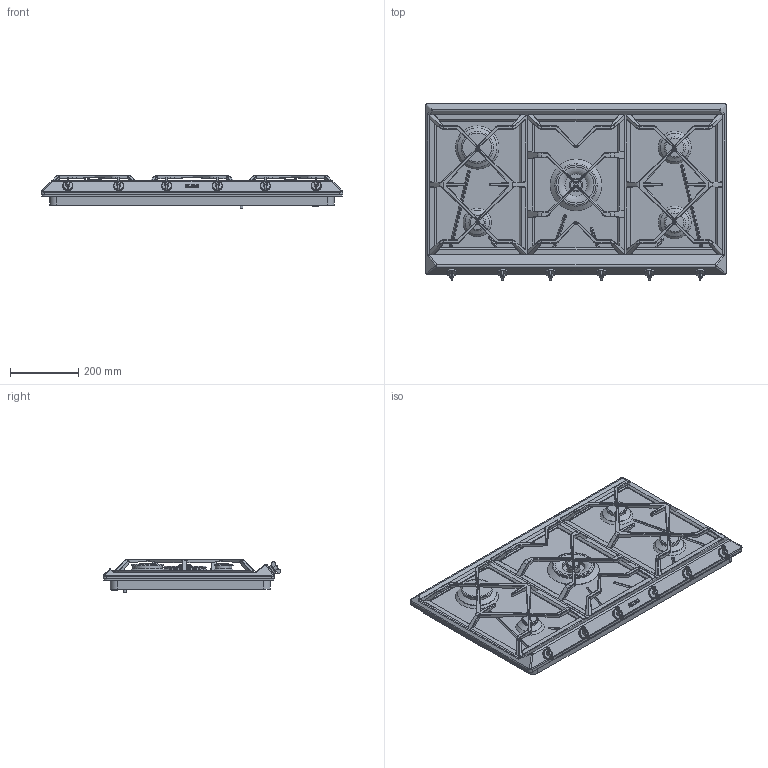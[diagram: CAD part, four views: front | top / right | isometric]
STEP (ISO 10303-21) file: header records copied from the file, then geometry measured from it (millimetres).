
FILE_DESCRIPTION(/* description */ (''),/* implementation_level */ '2;1');
FILE_NAME(/* name */ 'piano srv896aogh.stp',/* time_stamp */ '2019-01-14T13:43:27+01:00',/* author */ (''),/* organization */ (''),/* preprocessor_version */ 'ST-DEVELOPER v16',/* originating_system */ 'SIEMENS PLM Software NX 11.0',/* authorisation */ '');
FILE_SCHEMA (('AUTOMOTIVE_DESIGN { 1 0 10303 214 3 1 1 1 }'));
Length unit declared in the file: millimetre
Products named in the file (1): gobb517C6061baht
Bounding box: 886 x 522.04 x 97.59 mm (x, y, z)
Volume: 20547962.1 mm3; surface area: 2467930 mm2
Topology: 32 solids, 32 shells, 1272 faces, 3113 edges, 1897 vertices
Faces by surface type: plane 582, cylinder 434, bspline 100, torus 88, sphere 34, cone 33, extrusion 1
Full cylindrical faces by diameter (mm): 6 x6, 8 x1, 9.8 x12, 10 x6, 12 x6, 16 x2, 22.3 x1, 28 x1, 30 x6, 38 x1, 42 x1, 43 x1, 55 x2, 56 x2, 65.6 x1, 70.5 x1, 83 x2, 87 x1, 88 x1, 111 x1, 113.5 x1, 115 x1, 122.009 x1, 152 x1
Entity records: 37357 total; most frequent: CARTESIAN_POINT 7692, DIRECTION 6439, ORIENTED_EDGE 5854, EDGE_CURVE 2927, AXIS2_PLACEMENT_3D 2429, VERTEX_POINT 1849, VECTOR 1581, LINE 1580
